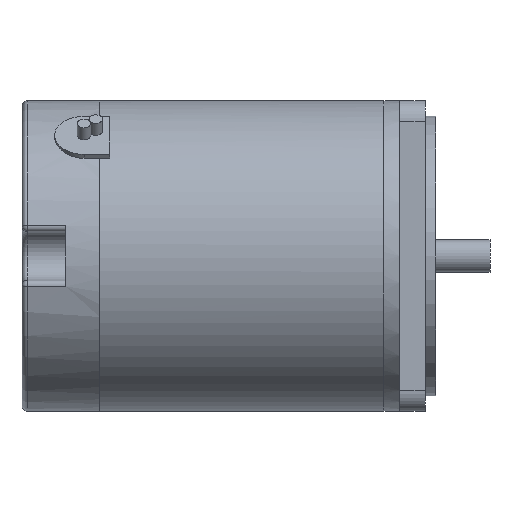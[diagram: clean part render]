
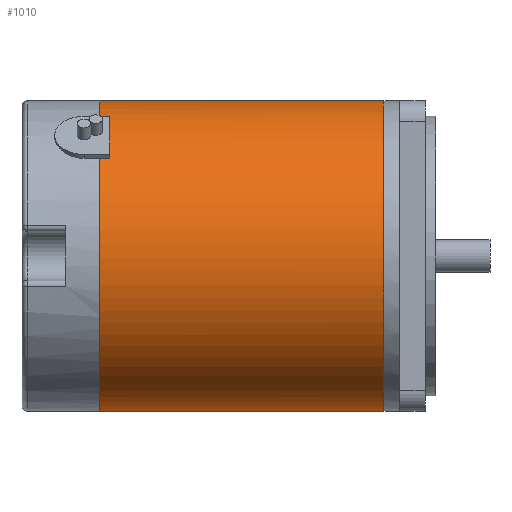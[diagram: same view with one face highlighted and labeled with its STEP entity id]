
A CAD part, left-side view. The second image highlights one B-rep face of the part: STEP entity #1010.
In plain terms, the highlighted cylindrical face has radius 30.05 mm (diameter 60.1 mm), a full revolution.
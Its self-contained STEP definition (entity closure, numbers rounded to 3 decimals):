
#903=CARTESIAN_POINT('',(-23.332,60.5,18.938));
#904=VERTEX_POINT('',#903);
#911=CARTESIAN_POINT('',(-23.332,58.5,18.938));
#912=VERTEX_POINT('',#911);
#913=CARTESIAN_POINT('',(-23.332,58.5,18.938));
#914=DIRECTION('',(0.0,1.0,0.0));
#915=VECTOR('',#914,2.0);
#916=LINE('',#913,#915);
#917=EDGE_CURVE('',#912,#904,#916,.T.);
#936=CARTESIAN_POINT('',(-14.599,60.5,26.266));
#937=VERTEX_POINT('',#936);
#947=CARTESIAN_POINT('',(-14.599,58.5,26.266));
#948=VERTEX_POINT('',#947);
#955=CARTESIAN_POINT('',(-14.599,60.5,26.266));
#956=DIRECTION('',(0.0,-1.0,0.0));
#957=VECTOR('',#956,2.);
#958=LINE('',#955,#957);
#959=EDGE_CURVE('',#937,#948,#958,.T.);
#969=CARTESIAN_POINT('',(0.0,58.5,0.0));
#970=DIRECTION('',(0.0,-1.0,0.0));
#971=DIRECTION('',(-1.0,0.0,0.0));
#972=AXIS2_PLACEMENT_3D('',#969,#970,#971);
#973=CIRCLE('',#972,30.05);
#974=EDGE_CURVE('',#948,#912,#973,.T.);
#982=CARTESIAN_POINT('',(0.0,5.5,0.0));
#983=DIRECTION('',(0.0,1.0,0.0));
#984=DIRECTION('',(-1.0,0.0,0.0));
#985=AXIS2_PLACEMENT_3D('',#982,#983,#984);
#986=CYLINDRICAL_SURFACE('',#985,30.05);
#987=CARTESIAN_POINT('',(30.05,5.5,0.));
#988=VERTEX_POINT('',#987);
#989=CARTESIAN_POINT('',(0.0,5.5,0.0));
#990=DIRECTION('',(0.0,-1.0,0.0));
#991=DIRECTION('',(-1.0,0.0,0.0));
#992=AXIS2_PLACEMENT_3D('',#989,#990,#991);
#993=CIRCLE('',#992,30.05);
#994=EDGE_CURVE('',#988,#988,#993,.T.);
#995=ORIENTED_EDGE('',*,*,#994,.F.);
#996=EDGE_LOOP('',(#995));
#997=FACE_OUTER_BOUND('',#996,.T.);
#998=ORIENTED_EDGE('',*,*,#959,.T.);
#999=ORIENTED_EDGE('',*,*,#974,.T.);
#1000=ORIENTED_EDGE('',*,*,#917,.T.);
#1001=CARTESIAN_POINT('',(0.0,60.5,0.0));
#1002=DIRECTION('',(0.0,-1.0,0.0));
#1003=DIRECTION('',(-1.0,0.0,0.0));
#1004=AXIS2_PLACEMENT_3D('',#1001,#1002,#1003);
#1005=CIRCLE('',#1004,30.05);
#1006=EDGE_CURVE('',#904,#937,#1005,.T.);
#1007=ORIENTED_EDGE('',*,*,#1006,.T.);
#1008=EDGE_LOOP('',(#998,#999,#1000,#1007));
#1009=FACE_BOUND('',#1008,.T.);
#1010=ADVANCED_FACE('',(#997,#1009),#986,.T.);
